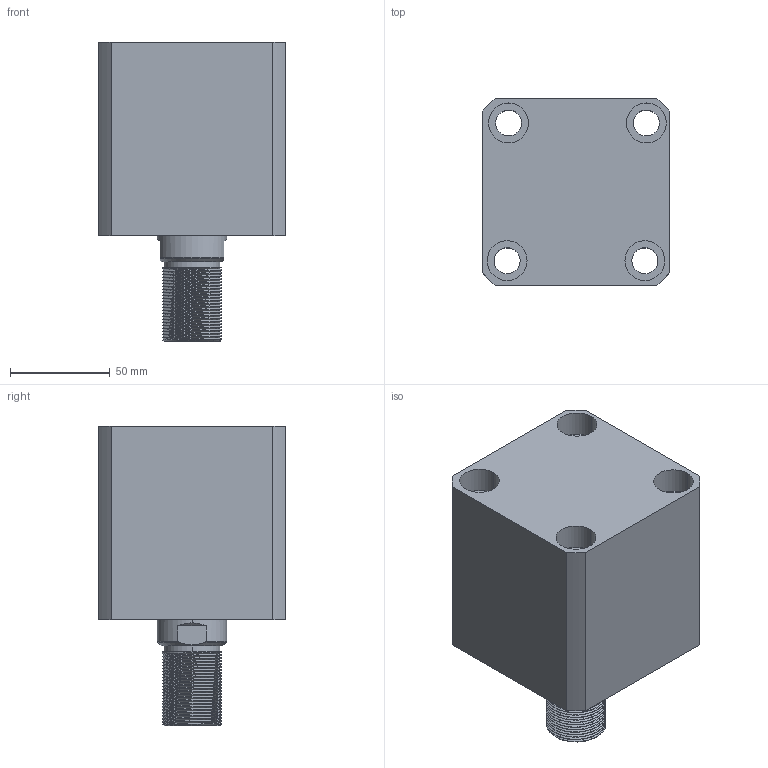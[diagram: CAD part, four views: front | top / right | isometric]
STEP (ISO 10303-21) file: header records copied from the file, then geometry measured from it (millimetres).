
FILE_DESCRIPTION (( 'STEP AP214' ), '1' );
FILE_NAME ('chtb-sdma63x30w_asm.STEP', '2018-05-18T09:20:49', ( 'Windows' ), ( 'Microsoft' ), 'SwSTEP 2.0', 'SolidWorks 2015', '' );
FILE_SCHEMA (( 'AUTOMOTIVE_DESIGN' ));
Length unit declared in the file: millimetre
Products named in the file (4): CHTB-SDMA63X30NBT; CHTB63X30WHSG; CHTB-63QG; chtb-sdma63x30w_asm
Assembly tree (3 placements, depth 2):
  chtb-sdma63x30w_asm
    CHTB-63QG
    CHTB63X30WHSG
    CHTB-SDMA63X30NBT
Bounding box: 94 x 94 x 150 mm (x, y, z)
Volume: 751019.8 mm3; surface area: 133632.9 mm2
Topology: 3 solids, 3 shells, 219 faces, 632 edges, 430 vertices
Faces by surface type: cylinder 156, plane 34, bspline 14, cone 9, torus 6
Entity records: 22297 total; most frequent: CARTESIAN_POINT 17024, ORIENTED_EDGE 1256, DIRECTION 878, EDGE_CURVE 628, VERTEX_POINT 430, AXIS2_PLACEMENT_3D 343, EDGE_LOOP 252, FACE_OUTER_BOUND 219
